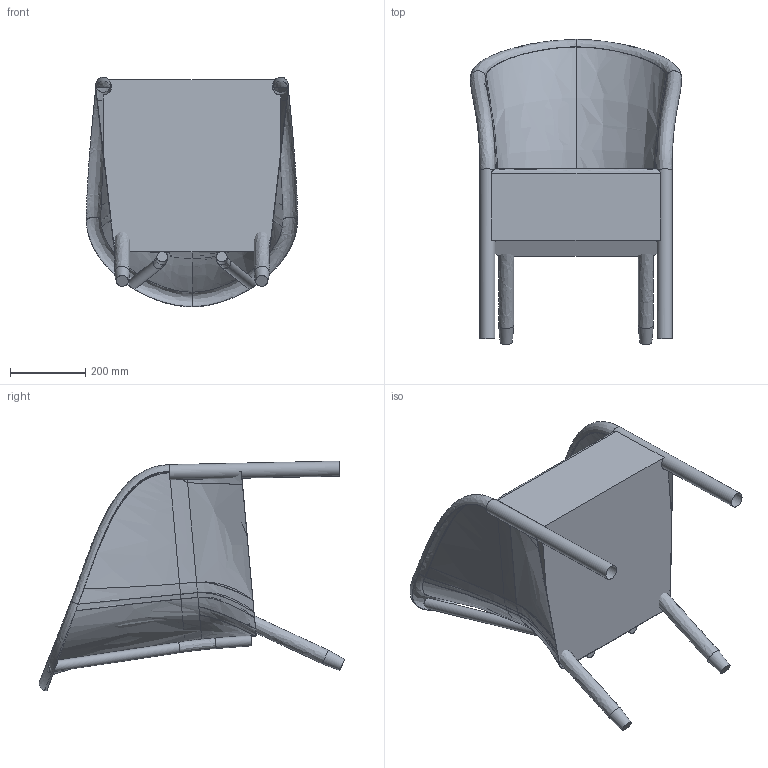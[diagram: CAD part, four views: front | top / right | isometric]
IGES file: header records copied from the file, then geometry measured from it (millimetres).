
Global section: file name: VincentSheppard_Chester; native system: unknown; preprocessor: unknown; author: ict@vincentsheppard.com; organization: unknown; date: 20180515.101938; units: millimetre
Bounding box: 560 x 809.52 x 609.37 mm (x, y, z)
Volume: 38340859.4 mm3; surface area: 2267189.9 mm2
Topology: 6 solids, 6 shells, 138 faces, 1916 edges, 1802 vertices
Faces by surface type: bspline 134, revolution 4
